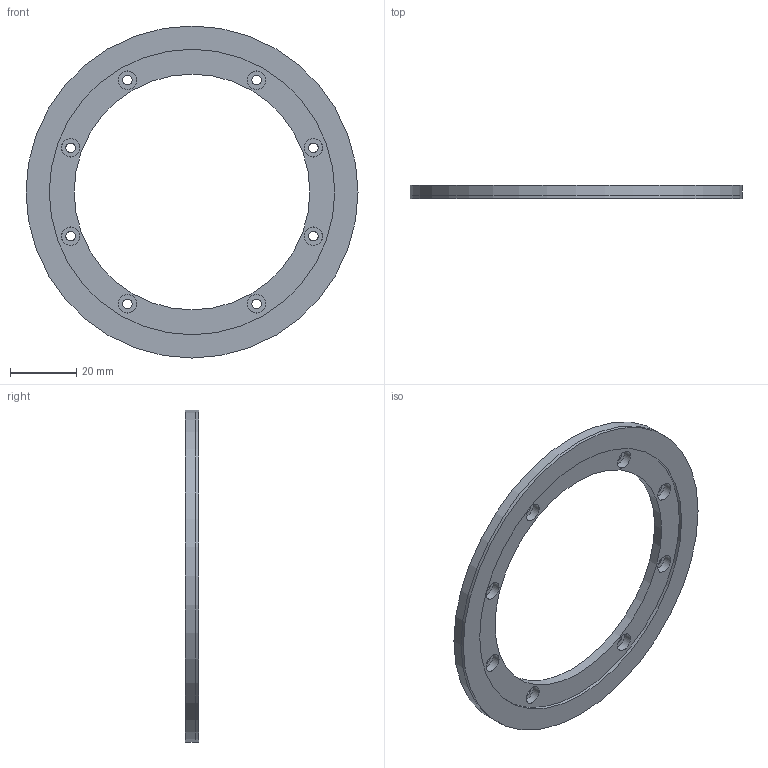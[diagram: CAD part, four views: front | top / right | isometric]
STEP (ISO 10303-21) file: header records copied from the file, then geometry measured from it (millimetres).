
FILE_DESCRIPTION(/* description */ (''),/* implementation_level */ '2;1');
FILE_NAME(/* name */ 'C:\Users\hnc\Desktop\엔코더\Bearingless type\Axail type\AH100-71-32-31-1.28-HN-AL\AH100-71-32-31-1.28-HN-AL.stp',/* time_stamp */ '2023-05-28T23:18:56+09:00',/* author */ ('hnc'),/* organization */ (''),/* preprocessor_version */ 'ST-DEVELOPER v18.1',/* originating_system */ 'Autodesk Inventor 2021',/* authorisation */ '');
FILE_SCHEMA (('AUTOMOTIVE_DESIGN { 1 0 10303 214 3 1 1 }'));
Length unit declared in the file: millimetre
Products named in the file (3): AH100-71-32-31-1.28-HN-AL; AH100-71-AL_BASE; AH100-71-MAGNET
Assembly tree (2 placements, depth 2):
  AH100-71-32-31-1.28-HN-AL
    AH100-71-AL_BASE
    AH100-71-MAGNET
Bounding box: 100 x 4 x 100 mm (x, y, z)
Volume: 13227.9 mm3; surface area: 14350.2 mm2
Topology: 2 solids, 2 shells, 40 faces, 122 edges, 94 vertices
Faces by surface type: cylinder 20, plane 12, cone 8
Full cylindrical faces by diameter (mm): 2.9 x8, 5.5 x8, 71 x1, 86 x1, 100 x2
Entity records: 1647 total; most frequent: DIRECTION 306, CARTESIAN_POINT 261, ORIENTED_EDGE 244, AXIS2_PLACEMENT_3D 139, EDGE_CURVE 122, CIRCLE 94, VERTEX_POINT 94, EDGE_LOOP 68
